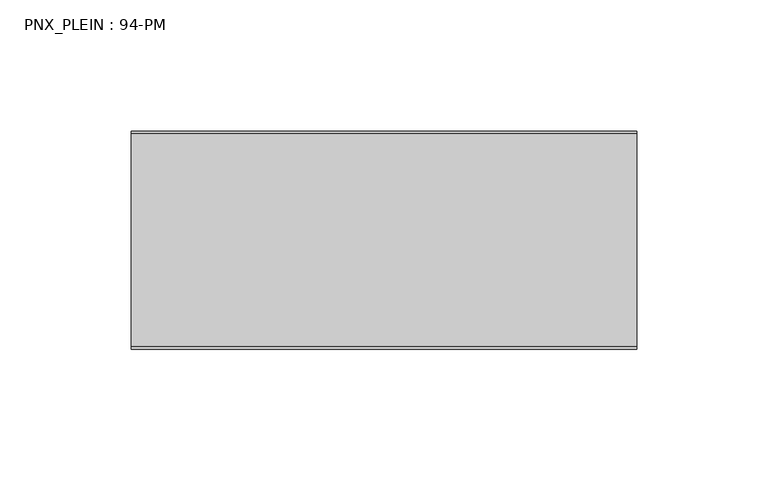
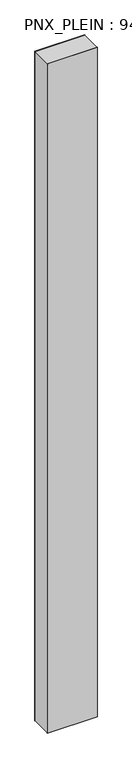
"""IFC4 building model written with IfcOpenShell, lengths in millimetres: plate geometry, PNX_PLEIN : 94-PM."""

from ifc_helpers import new_model, si_unit, origin, origin_with_axes, place, context, project, spatial, polyline, outline, extrude, source, transform, mapped, element, save


def pnx_plein_94_pm_9d71bff3(model_context):
    return source(origin(), model_context, "Body", "SweptSolid", [
        extrude(outline(polyline([(96.3, -40.5), (-96.3, -40.5), (-96.3, 40.5), (96.3, 40.5), (96.3, -40.5)])), origin_with_axes(), (0.0, 0.0, 1.0), 2739.0),
        extrude(outline(polyline([(96.3, -41.5), (-96.3, -41.5), (-96.3, -40.5), (96.3, -40.5), (96.3, -41.5)])), origin_with_axes(), (0.0, 0.0, 1.0), 2739.0),
        extrude(outline(polyline([(96.3, 40.5), (-96.3, 40.5), (-96.3, 41.5), (96.3, 41.5), (96.3, 40.5)])), origin_with_axes(), (0.0, 0.0, 1.0), 2739.0),
    ])


if __name__ == "__main__":
    model = new_model("IFC4")
    model_context = context("Model", 3, world=origin())
    ifc_project = project(units=[si_unit("LENGTHUNIT", "METRE", prefix="MILLI")], contexts=[model_context])
    site = spatial("IfcSite", under=ifc_project)
    building = spatial("IfcBuilding", under=site)
    placement = place(None, origin())
    pnx_plein_94_pm_shape = pnx_plein_94_pm_9d71bff3(model_context)
    element("IfcPlate", 1, ObjectType="PNX_PLEIN : 94-PM", at=placement, inside=building, context=model_context, shape_type="MappedRepresentation", body=[
        mapped(pnx_plein_94_pm_shape, transform((0.0, 0.0, 0.0), x_axis=(1.0, 0.0, 0.0), y_axis=(0.0, 1.0, 0.0), z_axis=(0.0, 0.0, 1.0))),
    ])
    save(model, "model.ifc")
